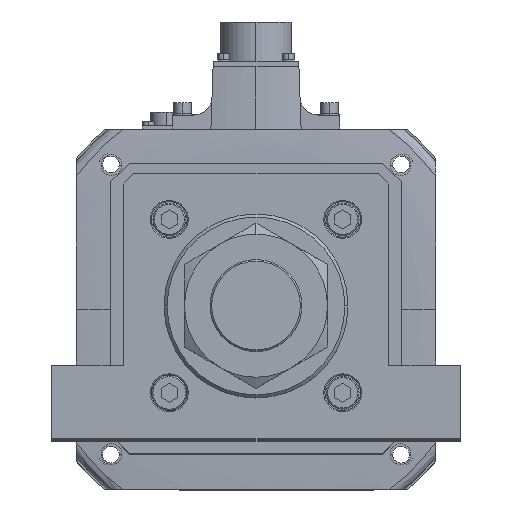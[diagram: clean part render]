
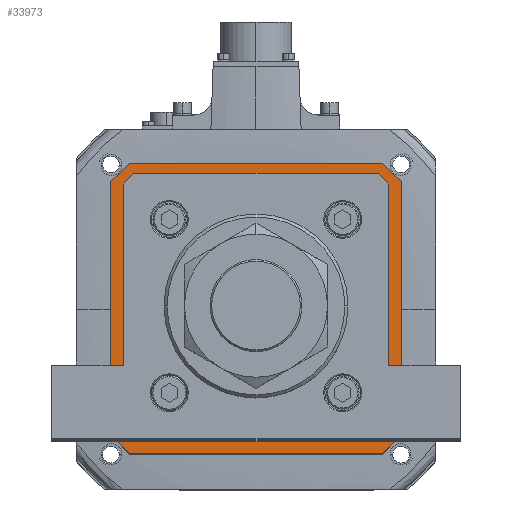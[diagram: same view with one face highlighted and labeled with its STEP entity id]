
A CAD part, top view. The second image highlights one B-rep face of the part: STEP entity #33973.
In plain terms, the highlighted planar face has unit normal (0, 0, 1) as drawn and (0, 0, -1) by its records, which use the part's own axes.
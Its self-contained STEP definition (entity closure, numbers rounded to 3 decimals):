
#26 = VERTEX_POINT ( 'NONE', #49786 ) ;
#1353 = EDGE_CURVE ( 'NONE', #29042, #40379, #6873, .T. ) ;
#1988 = LINE ( 'NONE', #13868, #36658 ) ;
#2348 = EDGE_CURVE ( 'NONE', #5901, #15747, #1988, .T. ) ;
#2586 = DIRECTION ( 'NONE',  ( 0.707, -0.707, 0. ) ) ;
#2633 = ORIENTED_EDGE ( 'NONE', *, *, #21606, .T. ) ;
#3500 = CARTESIAN_POINT ( 'NONE',  ( -63., 58.793, 60. ) ) ;
#4581 = LINE ( 'NONE', #20603, #52182 ) ;
#5552 = CARTESIAN_POINT ( 'NONE',  ( 71., -62., 60. ) ) ;
#5901 = VERTEX_POINT ( 'NONE', #8507 ) ;
#6212 = VERTEX_POINT ( 'NONE', #51216 ) ;
#6873 = LINE ( 'NONE', #19805, #36043 ) ;
#6941 = DIRECTION ( 'NONE',  ( 0., -1., 0. ) ) ;
#6969 = ORIENTED_EDGE ( 'NONE', *, *, #20973, .T. ) ;
#7081 = VERTEX_POINT ( 'NONE', #19550 ) ;
#7935 = ORIENTED_EDGE ( 'NONE', *, *, #23015, .F. ) ;
#8507 = CARTESIAN_POINT ( 'NONE',  ( -71., 62., 60. ) ) ;
#9249 = CARTESIAN_POINT ( 'NONE',  ( 60.896, 60.896, 60. ) ) ;
#9416 = CARTESIAN_POINT ( 'NONE',  ( -62., -71., 60. ) ) ;
#9830 = ORIENTED_EDGE ( 'NONE', *, *, #45284, .T. ) ;
#10004 = PLANE ( 'NONE',  #35002 ) ;
#10008 = VECTOR ( 'NONE', #49673, 1000. ) ;
#11276 = ORIENTED_EDGE ( 'NONE', *, *, #25611, .F. ) ;
#11862 = VECTOR ( 'NONE', #30885, 1000. ) ;
#11920 = FACE_BOUND ( 'NONE', #40103, .T. ) ;
#12108 = CARTESIAN_POINT ( 'NONE',  ( 62., -71., 60. ) ) ;
#12576 = CARTESIAN_POINT ( 'NONE',  ( 71., -62., 60. ) ) ;
#12592 = DIRECTION ( 'NONE',  ( -1., 0., 0. ) ) ;
#13868 = CARTESIAN_POINT ( 'NONE',  ( -71., 71., 60. ) ) ;
#14911 = CARTESIAN_POINT ( 'NONE',  ( 63., 58.793, 60. ) ) ;
#15065 = DIRECTION ( 'NONE',  ( 1., 0., 0. ) ) ;
#15331 = FACE_OUTER_BOUND ( 'NONE', #46513, .T. ) ;
#15543 = CARTESIAN_POINT ( 'NONE',  ( -60.896, -60.896, 60. ) ) ;
#15747 = VERTEX_POINT ( 'NONE', #17596 ) ;
#17151 = VERTEX_POINT ( 'NONE', #31894 ) ;
#17596 = CARTESIAN_POINT ( 'NONE',  ( -71., -62., 60. ) ) ;
#17900 = VERTEX_POINT ( 'NONE', #54605 ) ;
#18684 = VERTEX_POINT ( 'NONE', #42416 ) ;
#19550 = CARTESIAN_POINT ( 'NONE',  ( -62., 71., 60. ) ) ;
#19805 = CARTESIAN_POINT ( 'NONE',  ( -60.896, 60.896, 60. ) ) ;
#20107 = CARTESIAN_POINT ( 'NONE',  ( -71., -71., 60. ) ) ;
#20603 = CARTESIAN_POINT ( 'NONE',  ( 62., 71., 60. ) ) ;
#20973 = EDGE_CURVE ( 'NONE', #17151, #27287, #54760, .T. ) ;
#21476 = VECTOR ( 'NONE', #6941, 1000. ) ;
#21606 = EDGE_CURVE ( 'NONE', #6212, #17151, #39815, .T. ) ;
#21696 = ORIENTED_EDGE ( 'NONE', *, *, #40890, .T. ) ;
#22686 = DIRECTION ( 'NONE',  ( 0., 1., 0. ) ) ;
#22826 = LINE ( 'NONE', #46665, #21476 ) ;
#22863 = VECTOR ( 'NONE', #48385, 1000. ) ;
#23015 = EDGE_CURVE ( 'NONE', #17900, #7081, #36897, .T. ) ;
#23064 = ORIENTED_EDGE ( 'NONE', *, *, #1353, .T. ) ;
#23110 = DIRECTION ( 'NONE',  ( 0., 0., 1. ) ) ;
#23415 = DIRECTION ( 'NONE',  ( -0.707, -0.707, 0. ) ) ;
#23880 = CARTESIAN_POINT ( 'NONE',  ( 63., 59., 60. ) ) ;
#24130 = VECTOR ( 'NONE', #36983, 1000. ) ;
#24817 = LINE ( 'NONE', #5552, #55469 ) ;
#24832 = CARTESIAN_POINT ( 'NONE',  ( -58.793, -63., 60. ) ) ;
#24868 = LINE ( 'NONE', #9249, #22863 ) ;
#25072 = VERTEX_POINT ( 'NONE', #12108 ) ;
#25611 = EDGE_CURVE ( 'NONE', #43873, #47584, #41342, .T. ) ;
#25674 = CARTESIAN_POINT ( 'NONE',  ( -59., 63., 60. ) ) ;
#26359 = LINE ( 'NONE', #39616, #10008 ) ;
#26875 = VECTOR ( 'NONE', #38263, 1000. ) ;
#27020 = VECTOR ( 'NONE', #15065, 1000. ) ;
#27118 = VECTOR ( 'NONE', #12592, 1000. ) ;
#27287 = VERTEX_POINT ( 'NONE', #14911 ) ;
#27439 = EDGE_CURVE ( 'NONE', #40379, #26, #22826, .T. ) ;
#27735 = EDGE_CURVE ( 'NONE', #43873, #25072, #24817, .T. ) ;
#28254 = EDGE_CURVE ( 'NONE', #26, #51520, #45191, .T. ) ;
#28567 = EDGE_CURVE ( 'NONE', #48265, #15747, #54695, .T. ) ;
#29042 = VERTEX_POINT ( 'NONE', #33871 ) ;
#29246 = ORIENTED_EDGE ( 'NONE', *, *, #2348, .F. ) ;
#29841 = EDGE_CURVE ( 'NONE', #48265, #25072, #30116, .T. ) ;
#30116 = LINE ( 'NONE', #20107, #46449 ) ;
#30885 = DIRECTION ( 'NONE',  ( -0.707, 0.707, 0. ) ) ;
#31641 = ORIENTED_EDGE ( 'NONE', *, *, #27735, .T. ) ;
#31894 = CARTESIAN_POINT ( 'NONE',  ( 63., -58.793, 60. ) ) ;
#32268 = CARTESIAN_POINT ( 'NONE',  ( -62., -71., 60. ) ) ;
#33871 = CARTESIAN_POINT ( 'NONE',  ( -58.793, 63., 60. ) ) ;
#33973 = ADVANCED_FACE ( 'NONE', ( #11920, #15331 ), #10004, .F. ) ;
#34072 = DIRECTION ( 'NONE',  ( 0.707, -0.707, 0. ) ) ;
#34091 = CARTESIAN_POINT ( 'NONE',  ( 71., 62., 60. ) ) ;
#35002 = AXIS2_PLACEMENT_3D ( 'NONE', #40426, #23110, #48796 ) ;
#35399 = ORIENTED_EDGE ( 'NONE', *, *, #28567, .T. ) ;
#36043 = VECTOR ( 'NONE', #54402, 1000. ) ;
#36658 = VECTOR ( 'NONE', #44293, 1000. ) ;
#36691 = ORIENTED_EDGE ( 'NONE', *, *, #28254, .T. ) ;
#36897 = LINE ( 'NONE', #43622, #55997 ) ;
#36969 = VECTOR ( 'NONE', #2586, 1000. ) ;
#36983 = DIRECTION ( 'NONE',  ( 0., 1., 0. ) ) ;
#38263 = DIRECTION ( 'NONE',  ( 0.707, 0.707, 0. ) ) ;
#39390 = CARTESIAN_POINT ( 'NONE',  ( 71., 71., 60. ) ) ;
#39616 = CARTESIAN_POINT ( 'NONE',  ( -71., 62., 60. ) ) ;
#39815 = LINE ( 'NONE', #42810, #26875 ) ;
#39990 = VECTOR ( 'NONE', #22686, 1000. ) ;
#40103 = EDGE_LOOP ( 'NONE', ( #23064, #49106, #36691, #9830, #2633, #6969, #50321, #47675 ) ) ;
#40379 = VERTEX_POINT ( 'NONE', #3500 ) ;
#40426 = CARTESIAN_POINT ( 'NONE',  ( 0., 0., 60. ) ) ;
#40890 = EDGE_CURVE ( 'NONE', #17900, #47584, #4581, .T. ) ;
#41342 = LINE ( 'NONE', #39390, #39990 ) ;
#42416 = CARTESIAN_POINT ( 'NONE',  ( 58.793, 63., 60. ) ) ;
#42810 = CARTESIAN_POINT ( 'NONE',  ( 60.896, -60.896, 60. ) ) ;
#43622 = CARTESIAN_POINT ( 'NONE',  ( -71., 71., 60. ) ) ;
#43873 = VERTEX_POINT ( 'NONE', #12576 ) ;
#44293 = DIRECTION ( 'NONE',  ( 0., -1., 0. ) ) ;
#44333 = ORIENTED_EDGE ( 'NONE', *, *, #45267, .T. ) ;
#44366 = ORIENTED_EDGE ( 'NONE', *, *, #29841, .F. ) ;
#45191 = LINE ( 'NONE', #15543, #36969 ) ;
#45267 = EDGE_CURVE ( 'NONE', #5901, #7081, #26359, .T. ) ;
#45284 = EDGE_CURVE ( 'NONE', #51520, #6212, #51546, .T. ) ;
#46449 = VECTOR ( 'NONE', #55055, 1000. ) ;
#46513 = EDGE_LOOP ( 'NONE', ( #44366, #35399, #29246, #44333, #7935, #21696, #11276, #31641 ) ) ;
#46665 = CARTESIAN_POINT ( 'NONE',  ( -63., -59., 60. ) ) ;
#47584 = VERTEX_POINT ( 'NONE', #34091 ) ;
#47596 = DIRECTION ( 'NONE',  ( -1., 0., 0. ) ) ;
#47675 = ORIENTED_EDGE ( 'NONE', *, *, #50011, .T. ) ;
#48239 = LINE ( 'NONE', #25674, #27118 ) ;
#48265 = VERTEX_POINT ( 'NONE', #32268 ) ;
#48385 = DIRECTION ( 'NONE',  ( -0.707, 0.707, 0. ) ) ;
#48796 = DIRECTION ( 'NONE',  ( 1., 0., 0. ) ) ;
#49106 = ORIENTED_EDGE ( 'NONE', *, *, #27439, .T. ) ;
#49673 = DIRECTION ( 'NONE',  ( 0.707, 0.707, 0. ) ) ;
#49786 = CARTESIAN_POINT ( 'NONE',  ( -63., -58.793, 60. ) ) ;
#50011 = EDGE_CURVE ( 'NONE', #18684, #29042, #48239, .T. ) ;
#50321 = ORIENTED_EDGE ( 'NONE', *, *, #53508, .T. ) ;
#51216 = CARTESIAN_POINT ( 'NONE',  ( 58.793, -63., 60. ) ) ;
#51520 = VERTEX_POINT ( 'NONE', #24832 ) ;
#51546 = LINE ( 'NONE', #53879, #27020 ) ;
#52182 = VECTOR ( 'NONE', #34072, 1000. ) ;
#53508 = EDGE_CURVE ( 'NONE', #27287, #18684, #24868, .T. ) ;
#53879 = CARTESIAN_POINT ( 'NONE',  ( 59., -63., 60. ) ) ;
#54402 = DIRECTION ( 'NONE',  ( -0.707, -0.707, 0. ) ) ;
#54605 = CARTESIAN_POINT ( 'NONE',  ( 62., 71., 60. ) ) ;
#54695 = LINE ( 'NONE', #9416, #11862 ) ;
#54760 = LINE ( 'NONE', #23880, #24130 ) ;
#55055 = DIRECTION ( 'NONE',  ( 1., 0., 0. ) ) ;
#55469 = VECTOR ( 'NONE', #23415, 1000. ) ;
#55997 = VECTOR ( 'NONE', #47596, 1000. ) ;
